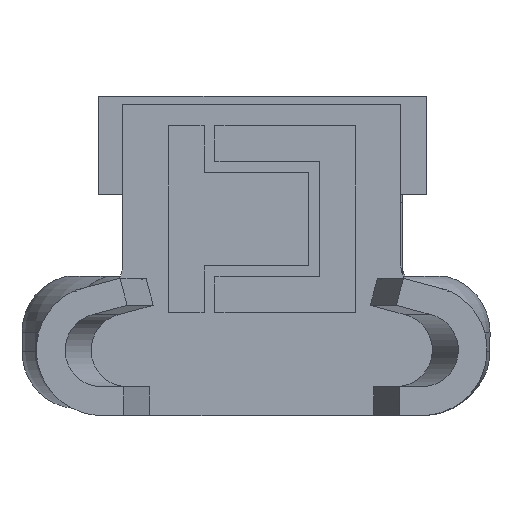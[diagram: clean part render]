
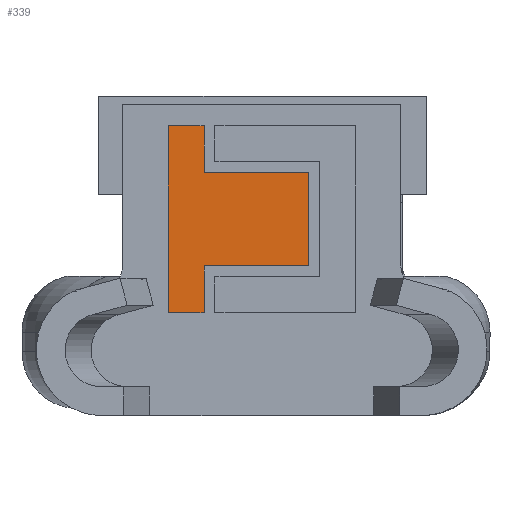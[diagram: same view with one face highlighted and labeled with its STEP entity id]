
A CAD part, left-side view. The second image highlights one B-rep face of the part: STEP entity #339.
In plain terms, the highlighted planar face has unit normal (-1, 0, 0) as drawn and (1, 0, 0) by its records, which use the part's own axes.
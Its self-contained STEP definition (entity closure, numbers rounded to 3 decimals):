
#61 = VECTOR ( 'NONE', #1303, 1000. ) ;
#92 = DIRECTION ( 'NONE',  ( 0., 1., 0. ) ) ;
#132 = CARTESIAN_POINT ( 'NONE',  ( 4.4, 6.286, 3.523 ) ) ;
#134 = VERTEX_POINT ( 'NONE', #2661 ) ;
#256 = VERTEX_POINT ( 'NONE', #5759 ) ;
#339 = ADVANCED_FACE ( 'NONE', ( #1735 ), #5834, .T. ) ;
#344 = VECTOR ( 'NONE', #1144, 1000. ) ;
#481 = ORIENTED_EDGE ( 'NONE', *, *, #5431, .T. ) ;
#734 = VECTOR ( 'NONE', #1718, 1000. ) ;
#847 = LINE ( 'NONE', #6503, #2601 ) ;
#981 = VERTEX_POINT ( 'NONE', #132 ) ;
#1025 = ORIENTED_EDGE ( 'NONE', *, *, #2728, .T. ) ;
#1042 = CARTESIAN_POINT ( 'NONE',  ( 4.4, 17.714, 3.523 ) ) ;
#1144 = DIRECTION ( 'NONE',  ( 0., 1., 0. ) ) ;
#1246 = EDGE_CURVE ( 'NONE', #4687, #4061, #1645, .T. ) ;
#1303 = DIRECTION ( 'NONE',  ( 0., -1., 0. ) ) ;
#1349 = LINE ( 'NONE', #1383, #5492 ) ;
#1383 = CARTESIAN_POINT ( 'NONE',  ( 4.4, 6.286, 5.714 ) ) ;
#1394 = EDGE_CURVE ( 'NONE', #134, #981, #1349, .T. ) ;
#1610 = DIRECTION ( 'NONE',  ( 0., 0., 1. ) ) ;
#1645 = LINE ( 'NONE', #4363, #344 ) ;
#1718 = DIRECTION ( 'NONE',  ( 0., 0., -1. ) ) ;
#1735 = FACE_OUTER_BOUND ( 'NONE', #2478, .T. ) ;
#1794 = CARTESIAN_POINT ( 'NONE',  ( 4.4, 17.714, 3.523 ) ) ;
#1913 = DIRECTION ( 'NONE',  ( 0., 1., 0. ) ) ;
#2088 = CARTESIAN_POINT ( 'NONE',  ( 4.4, 14.857, -2.857 ) ) ;
#2268 = ORIENTED_EDGE ( 'NONE', *, *, #3756, .T. ) ;
#2356 = ORIENTED_EDGE ( 'NONE', *, *, #1246, .T. ) ;
#2419 = VECTOR ( 'NONE', #92, 1000. ) ;
#2478 = EDGE_LOOP ( 'NONE', ( #481, #2268, #2771, #2901, #6029, #5656, #1025, #2356 ) ) ;
#2494 = VERTEX_POINT ( 'NONE', #4262 ) ;
#2601 = VECTOR ( 'NONE', #1913, 1000. ) ;
#2649 = VERTEX_POINT ( 'NONE', #2088 ) ;
#2661 = CARTESIAN_POINT ( 'NONE',  ( 4.4, 6.286, 5.714 ) ) ;
#2728 = EDGE_CURVE ( 'NONE', #2649, #4687, #3826, .T. ) ;
#2771 = ORIENTED_EDGE ( 'NONE', *, *, #1394, .T. ) ;
#2783 = CARTESIAN_POINT ( 'NONE',  ( 4.4, 14.857, -2.857 ) ) ;
#2849 = AXIS2_PLACEMENT_3D ( 'NONE', #3310, #6135, #5642 ) ;
#2901 = ORIENTED_EDGE ( 'NONE', *, *, #3154, .T. ) ;
#2947 = CARTESIAN_POINT ( 'NONE',  ( 4.4, 9.143, 3.523 ) ) ;
#3154 = EDGE_CURVE ( 'NONE', #981, #4437, #4778, .T. ) ;
#3191 = LINE ( 'NONE', #1042, #6522 ) ;
#3258 = LINE ( 'NONE', #4400, #734 ) ;
#3310 = CARTESIAN_POINT ( 'NONE',  ( 4.4, 0., 0. ) ) ;
#3319 = CARTESIAN_POINT ( 'NONE',  ( 4.4, 6.286, 3.523 ) ) ;
#3756 = EDGE_CURVE ( 'NONE', #256, #134, #4452, .T. ) ;
#3826 = LINE ( 'NONE', #2783, #4167 ) ;
#4061 = VERTEX_POINT ( 'NONE', #1794 ) ;
#4167 = VECTOR ( 'NONE', #5315, 1000. ) ;
#4262 = CARTESIAN_POINT ( 'NONE',  ( 4.4, 9.143, -2.857 ) ) ;
#4363 = CARTESIAN_POINT ( 'NONE',  ( 4.4, 14.857, 3.523 ) ) ;
#4400 = CARTESIAN_POINT ( 'NONE',  ( 4.4, 9.143, 3.523 ) ) ;
#4437 = VERTEX_POINT ( 'NONE', #2947 ) ;
#4452 = LINE ( 'NONE', #6464, #61 ) ;
#4578 = EDGE_CURVE ( 'NONE', #4437, #2494, #3258, .T. ) ;
#4687 = VERTEX_POINT ( 'NONE', #4764 ) ;
#4764 = CARTESIAN_POINT ( 'NONE',  ( 4.4, 14.857, 3.523 ) ) ;
#4778 = LINE ( 'NONE', #3319, #2419 ) ;
#5315 = DIRECTION ( 'NONE',  ( 0., 0., 1. ) ) ;
#5389 = DIRECTION ( 'NONE',  ( 0., 0., -1. ) ) ;
#5431 = EDGE_CURVE ( 'NONE', #4061, #256, #3191, .T. ) ;
#5492 = VECTOR ( 'NONE', #5389, 1000. ) ;
#5642 = DIRECTION ( 'NONE',  ( 0., 0., -1. ) ) ;
#5649 = EDGE_CURVE ( 'NONE', #2494, #2649, #847, .T. ) ;
#5656 = ORIENTED_EDGE ( 'NONE', *, *, #5649, .T. ) ;
#5759 = CARTESIAN_POINT ( 'NONE',  ( 4.4, 17.714, 5.714 ) ) ;
#5834 = PLANE ( 'NONE',  #2849 ) ;
#6029 = ORIENTED_EDGE ( 'NONE', *, *, #4578, .T. ) ;
#6135 = DIRECTION ( 'NONE',  ( 1., 0., 0. ) ) ;
#6464 = CARTESIAN_POINT ( 'NONE',  ( 4.4, 17.714, 5.714 ) ) ;
#6503 = CARTESIAN_POINT ( 'NONE',  ( 4.4, 9.143, -2.857 ) ) ;
#6522 = VECTOR ( 'NONE', #1610, 1000. ) ;
